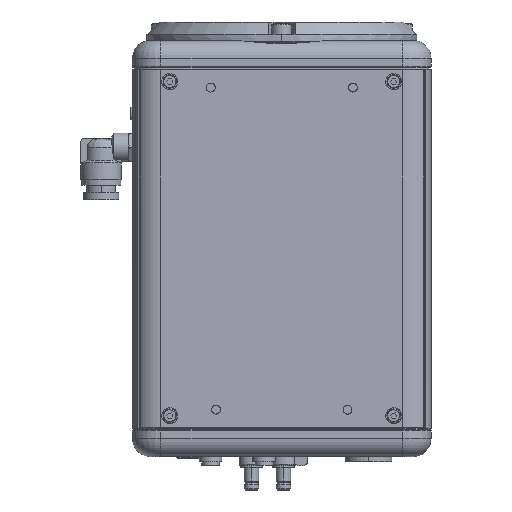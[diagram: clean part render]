
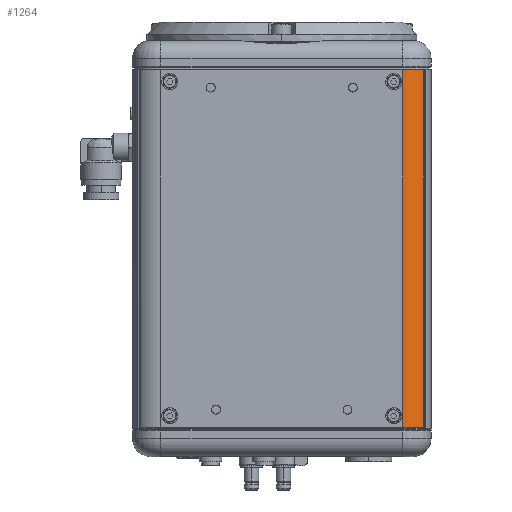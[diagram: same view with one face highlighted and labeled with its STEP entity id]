
A CAD part, front view. The second image highlights one B-rep face of the part: STEP entity #1264.
In plain terms, the highlighted cylindrical face has radius 8 mm (diameter 16 mm), a partial arc.
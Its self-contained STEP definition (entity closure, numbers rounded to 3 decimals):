
#79 = CARTESIAN_POINT ( 'NONE',  ( 36.66, -41.564, -108.8 ) ) ;
#1264 = ADVANCED_FACE ( 'NONE', ( #88470 ), #154331, .T. ) ;
#1629 = CARTESIAN_POINT ( 'NONE',  ( 39.429, -39.9, -8.2 ) ) ;
#2823 = CARTESIAN_POINT ( 'NONE',  ( 34., -42., -8.2 ) ) ;
#8626 = B_SPLINE_CURVE_WITH_KNOTS ( 'NONE', 3,
 ( #2823, #84826, #127185, #126588, #72453, #101362, #127801, #28784, #1629, #17038 ),
 .UNSPECIFIED., .F., .F.,
 ( 4, 2, 2, 2, 4 ),
 ( 0., 0.25, 0.5, 0.75, 1. ),
 .UNSPECIFIED. ) ;
#13438 = VERTEX_POINT ( 'NONE', #95604 ) ;
#17038 = CARTESIAN_POINT ( 'NONE',  ( 39.803, -39.506, -8.2 ) ) ;
#25917 = VECTOR ( 'NONE', #150828, 1000. ) ;
#28784 = CARTESIAN_POINT ( 'NONE',  ( 39.02, -40.253, -8.2 ) ) ;
#33154 = DIRECTION ( 'NONE',  ( 0., 0., 1. ) ) ;
#40274 = ORIENTED_EDGE ( 'NONE', *, *, #97668, .F. ) ;
#42647 = CARTESIAN_POINT ( 'NONE',  ( 36.144, -41.726, -108.8 ) ) ;
#49509 = VERTEX_POINT ( 'NONE', #182437 ) ;
#51675 = ORIENTED_EDGE ( 'NONE', *, *, #160883, .F. ) ;
#54556 = LINE ( 'NONE', #63884, #177823 ) ;
#54958 = CARTESIAN_POINT ( 'NONE',  ( 37.657, -41.136, -108.8 ) ) ;
#56307 = AXIS2_PLACEMENT_3D ( 'NONE', #76801, #33154, #175257 ) ;
#60997 = EDGE_CURVE ( 'NONE', #49509, #172523, #96422, .T. ) ;
#62756 = CARTESIAN_POINT ( 'NONE',  ( 34., -42., -108.8 ) ) ;
#63884 = CARTESIAN_POINT ( 'NONE',  ( 34., -42., -58.5 ) ) ;
#68415 = EDGE_LOOP ( 'NONE', ( #79759, #109580, #51675, #40274 ) ) ;
#72453 = CARTESIAN_POINT ( 'NONE',  ( 36.66, -41.564, -8.2 ) ) ;
#76801 = CARTESIAN_POINT ( 'NONE',  ( 34., -34., -108.8 ) ) ;
#79759 = ORIENTED_EDGE ( 'NONE', *, *, #60997, .F. ) ;
#82479 = CARTESIAN_POINT ( 'NONE',  ( 39.803, -39.506, -58.5 ) ) ;
#83895 = CARTESIAN_POINT ( 'NONE',  ( 38.129, -40.873, -108.8 ) ) ;
#84826 = CARTESIAN_POINT ( 'NONE',  ( 34.543, -42., -8.2 ) ) ;
#88470 = FACE_OUTER_BOUND ( 'NONE', #68415, .T. ) ;
#95604 = CARTESIAN_POINT ( 'NONE',  ( 34., -42., -8.2 ) ) ;
#96422 = LINE ( 'NONE', #82479, #25917 ) ;
#97668 = EDGE_CURVE ( 'NONE', #172523, #122731, #129045, .T. ) ;
#101362 = CARTESIAN_POINT ( 'NONE',  ( 37.657, -41.136, -8.2 ) ) ;
#105170 = DIRECTION ( 'NONE',  ( 0., 0., 1. ) ) ;
#109580 = ORIENTED_EDGE ( 'NONE', *, *, #160228, .F. ) ;
#112138 = CARTESIAN_POINT ( 'NONE',  ( 39.43, -39.9, -108.8 ) ) ;
#113947 = CARTESIAN_POINT ( 'NONE',  ( 39.803, -39.506, -108.8 ) ) ;
#122731 = VERTEX_POINT ( 'NONE', #62756 ) ;
#126281 = CARTESIAN_POINT ( 'NONE',  ( 34.543, -42., -108.8 ) ) ;
#126588 = CARTESIAN_POINT ( 'NONE',  ( 36.144, -41.727, -8.2 ) ) ;
#127185 = CARTESIAN_POINT ( 'NONE',  ( 35.081, -41.945, -8.2 ) ) ;
#127801 = CARTESIAN_POINT ( 'NONE',  ( 38.129, -40.873, -8.2 ) ) ;
#129045 = B_SPLINE_CURVE_WITH_KNOTS ( 'NONE', 3,
 ( #113947, #112138, #168179, #83895, #54958, #79, #42647, #141088, #126281, #168804 ),
 .UNSPECIFIED., .F., .F.,
 ( 4, 2, 2, 2, 4 ),
 ( 0., 0.25, 0.5, 0.75, 1. ),
 .UNSPECIFIED. ) ;
#141088 = CARTESIAN_POINT ( 'NONE',  ( 35.081, -41.945, -108.8 ) ) ;
#150828 = DIRECTION ( 'NONE',  ( 0., 0., -1. ) ) ;
#154331 = CYLINDRICAL_SURFACE ( 'NONE', #56307, 8. ) ;
#160228 = EDGE_CURVE ( 'NONE', #13438, #49509, #8626, .T. ) ;
#160883 = EDGE_CURVE ( 'NONE', #122731, #13438, #54556, .T. ) ;
#168179 = CARTESIAN_POINT ( 'NONE',  ( 39.02, -40.253, -108.8 ) ) ;
#168804 = CARTESIAN_POINT ( 'NONE',  ( 34., -42., -108.8 ) ) ;
#172523 = VERTEX_POINT ( 'NONE', #175644 ) ;
#175257 = DIRECTION ( 'NONE',  ( 0., -1., 0. ) ) ;
#175644 = CARTESIAN_POINT ( 'NONE',  ( 39.803, -39.506, -108.8 ) ) ;
#177823 = VECTOR ( 'NONE', #105170, 1000. ) ;
#182437 = CARTESIAN_POINT ( 'NONE',  ( 39.803, -39.506, -8.2 ) ) ;
